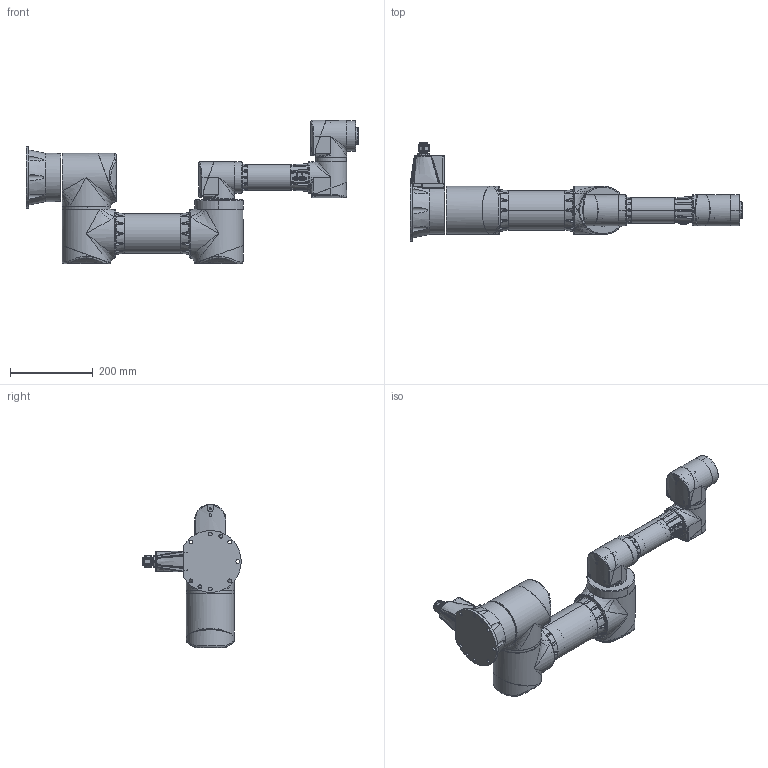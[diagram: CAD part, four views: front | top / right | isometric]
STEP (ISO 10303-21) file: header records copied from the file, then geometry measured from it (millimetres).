
FILE_DESCRIPTION((''),'2;1');
FILE_NAME('ZRA_0507N_ASM','2022-11-10T09:14:58',('ChoSeongHee'),(''),'CREO PARAMETRIC BY PTC INC, 2020354','CREO PARAMETRIC BY PTC INC, 2020354','');
FILE_SCHEMA(('CONFIG_CONTROL_DESIGN'));
Products named in the file (25): FLANGE_B; HOLDER_M; COVER_M; MODULE_M_ASM; RING_M; ARM1_PIPE; FLANGE_ARM1; ARM1_ASM; FLANGE_J3; HOLDER_S; COVER_S; MODULE_S_ASM; PIPE2; FLANGE_J4; FLANGE_J5; PLATE; PORT; ARM2_ASM; FLANGE_E; RING_S; COVER_J; CABLE; PLATE_J; COVER_J_ASM; ZRA_0507N_ASM
Assembly tree (29 placements, depth 3):
  ZRA_0507N_ASM
    FLANGE_B
    MODULE_M_ASM  x3
      HOLDER_M
      COVER_M
    RING_M
    ARM1_ASM
      ARM1_PIPE
      FLANGE_ARM1  x2
    FLANGE_J3
    MODULE_S_ASM  x3
      HOLDER_S
      COVER_S
    ARM2_ASM
      PIPE2
      FLANGE_J4
      FLANGE_J5
      PLATE
      PORT
    FLANGE_E
    RING_S
    COVER_J_ASM
      COVER_J
      CABLE
      PLATE_J
Bounding box: 800.1 x 237.3 x 344.89 mm (x, y, z)
Volume: 11144139.8 mm3; surface area: 879729.5 mm2
Topology: 28 solids, 212 shells, 3861 faces, 10478 edges, 6914 vertices
Faces by surface type: cylinder 1409, plane 1297, bspline 650, torus 269, cone 210, sphere 18, extrusion 8
Entity records: 146255 total; most frequent: CARTESIAN_POINT 72340, ORIENTED_EDGE 16264, DIRECTION 13894, EDGE_CURVE 8266, VERTEX_POINT 5414, AXIS2_PLACEMENT_3D 5218, VECTOR 3458, LINE 3450
